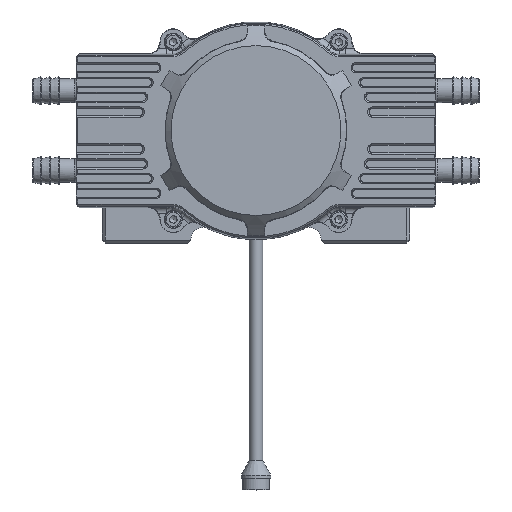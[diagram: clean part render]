
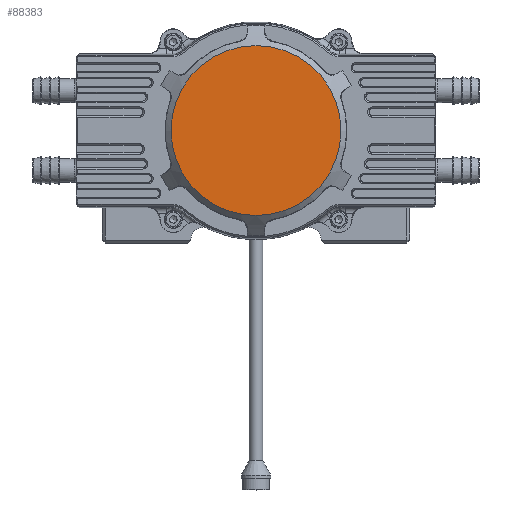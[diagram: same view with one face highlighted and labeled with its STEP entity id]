
A CAD part, top view. The second image highlights one B-rep face of the part: STEP entity #88383.
In plain terms, the highlighted planar face has unit normal (0, 0, 1).
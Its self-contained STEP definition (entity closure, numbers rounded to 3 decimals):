
#6985 = DIRECTION ( 'NONE',  ( 0., 0., 1. ) ) ;
#17125 = EDGE_CURVE ( 'NONE', #73888, #73888, #22131, .T. ) ;
#17635 = ORIENTED_EDGE ( 'NONE', *, *, #17125, .T. ) ;
#22131 = CIRCLE ( 'NONE', #49338, 28.75 ) ;
#28074 = EDGE_LOOP ( 'NONE', ( #17635 ) ) ;
#49338 = AXIS2_PLACEMENT_3D ( 'NONE', #80520, #6985, #73362 ) ;
#54472 = DIRECTION ( 'NONE',  ( -1., 0., 0. ) ) ;
#61034 = CARTESIAN_POINT ( 'NONE',  ( -28.75, 0., 6.8 ) ) ;
#61628 = DIRECTION ( 'NONE',  ( 0., 0., -1. ) ) ;
#67305 = AXIS2_PLACEMENT_3D ( 'NONE', #74972, #61628, #54472 ) ;
#73362 = DIRECTION ( 'NONE',  ( -1., 0., 0. ) ) ;
#73888 = VERTEX_POINT ( 'NONE', #61034 ) ;
#74972 = CARTESIAN_POINT ( 'NONE',  ( 0., 0., 6.8 ) ) ;
#80520 = CARTESIAN_POINT ( 'NONE',  ( 0., 0., 6.8 ) ) ;
#88383 = ADVANCED_FACE ( 'NONE', ( #90304 ), #91220, .F. ) ;
#90304 = FACE_OUTER_BOUND ( 'NONE', #28074, .T. ) ;
#91220 = PLANE ( 'NONE',  #67305 ) ;
